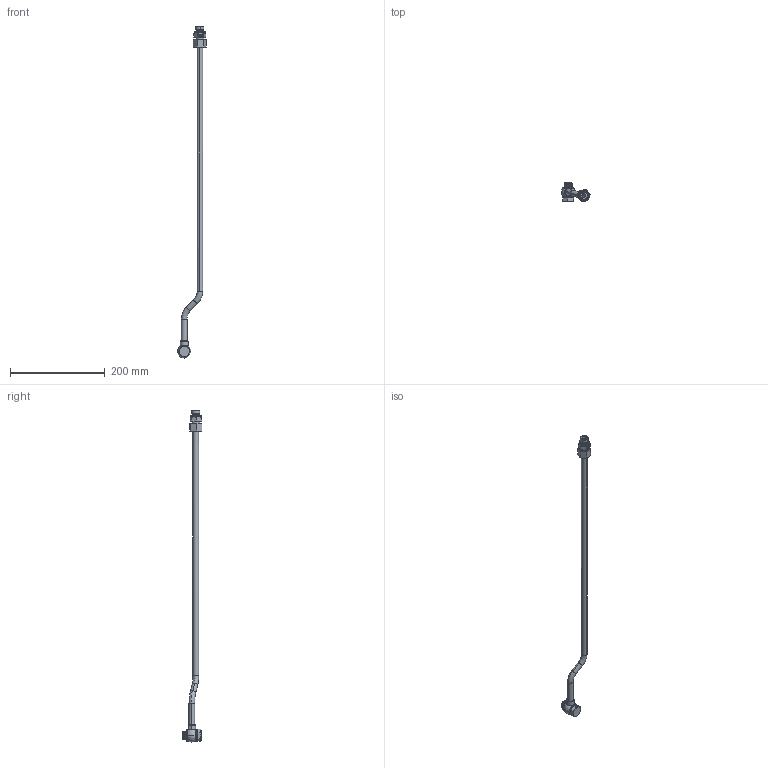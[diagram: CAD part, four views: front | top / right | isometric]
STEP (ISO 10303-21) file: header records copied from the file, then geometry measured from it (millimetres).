
FILE_DESCRIPTION (( 'STEP AP203' ), '1' );
FILE_NAME ('KITBL38S750B.STEP', '2021-06-02T13:49:03', ( '' ), ( '' ), 'SwSTEP 2.0', 'SolidWorks 2019', '' );
FILE_SCHEMA (( 'CONFIG_CONTROL_DESIGN' ));
Length unit declared in the file: millimetre
Products named in the file (1): KITBL38S750B
Bounding box: 60.74 x 41.79 x 702 mm (x, y, z)
Surface area: 36567.3 mm2 (no closed solid volume)
Topology: 0 solids, 14 shells, 168 faces, 612 edges, 457 vertices
Faces by surface type: cylinder 57, cone 53, plane 49, torus 4, bspline 3, sphere 2
Entity records: 9718 total; most frequent: CARTESIAN_POINT 4699, DIRECTION 1007, ORIENTED_EDGE 962, EDGE_CURVE 608, VERTEX_POINT 455, AXIS2_PLACEMENT_3D 388, LINE 231, VECTOR 231
